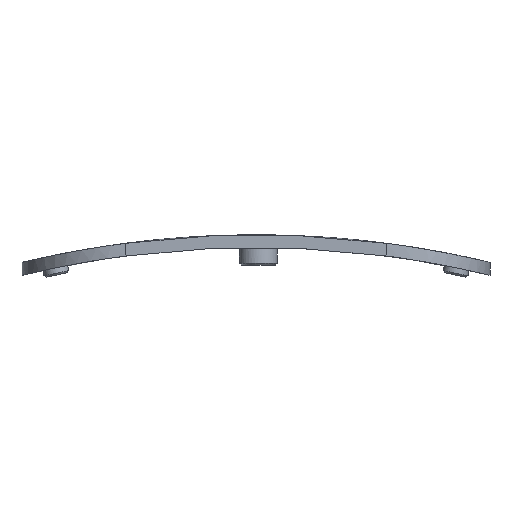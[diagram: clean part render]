
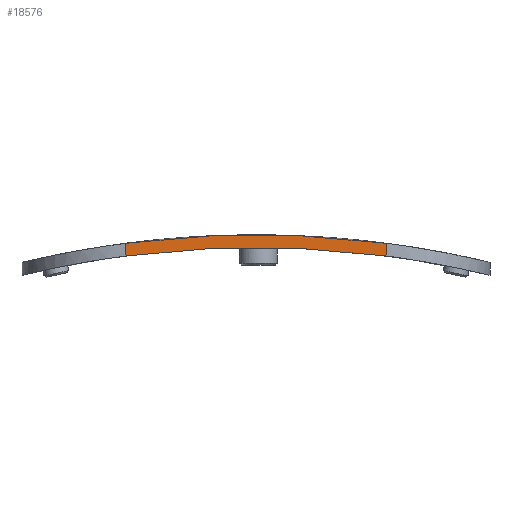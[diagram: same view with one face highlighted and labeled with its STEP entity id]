
A CAD part, front view. The second image highlights one B-rep face of the part: STEP entity #18576.
In plain terms, the highlighted planar face has unit normal (0, -1, 0).
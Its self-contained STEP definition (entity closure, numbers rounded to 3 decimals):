
#71 = CYLINDRICAL_SURFACE('',#72,111.371);
#72 = AXIS2_PLACEMENT_3D('',#73,#74,#75);
#73 = CARTESIAN_POINT('',(53.19,0.,-111.371));
#74 = DIRECTION('',(0.,-1.,0.));
#75 = DIRECTION('',(1.,0.,0.));
#98 = CYLINDRICAL_SURFACE('',#99,11.5);
#99 = AXIS2_PLACEMENT_3D('',#100,#101,#102);
#100 = CARTESIAN_POINT('',(38.74,7.02,2.));
#101 = DIRECTION('',(0.,0.,1.));
#102 = DIRECTION('',(1.,0.,0.));
#123 = CYLINDRICAL_SURFACE('',#124,109.971);
#124 = AXIS2_PLACEMENT_3D('',#125,#126,#127);
#125 = CARTESIAN_POINT('',(53.19,0.,-111.371));
#126 = DIRECTION('',(0.,-1.,0.));
#127 = DIRECTION('',(1.,0.,0.));
#280 = VERTEX_POINT('',#281);
#281 = CARTESIAN_POINT('',(38.74,-4.48,-2.353));
#407 = EDGE_CURVE('',#280,#408,#410,.T.);
#408 = VERTEX_POINT('',#409);
#409 = CARTESIAN_POINT('',(67.64,-4.48,-2.353));
#410 = SURFACE_CURVE('',#411,(#416,#423),.PCURVE_S1.);
#411 = CIRCLE('',#412,109.971);
#412 = AXIS2_PLACEMENT_3D('',#413,#414,#415);
#413 = CARTESIAN_POINT('',(53.19,-4.48,-111.371));
#414 = DIRECTION('',(-0.,1.,0.));
#415 = DIRECTION('',(1.,0.,0.));
#416 = PCURVE('',#123,#417);
#417 = DEFINITIONAL_REPRESENTATION('',(#418),#422);
#418 = LINE('',#419,#420);
#419 = CARTESIAN_POINT('',(6.283,4.48));
#420 = VECTOR('',#421,1.);
#421 = DIRECTION('',(-1.,-0.));
#422 = ( GEOMETRIC_REPRESENTATION_CONTEXT(2) 
PARAMETRIC_REPRESENTATION_CONTEXT() REPRESENTATION_CONTEXT('2D SPACE',''
  ) );
#423 = PCURVE('',#424,#429);
#424 = PLANE('',#425);
#425 = AXIS2_PLACEMENT_3D('',#426,#427,#428);
#426 = CARTESIAN_POINT('',(38.74,-4.48,2.));
#427 = DIRECTION('',(0.,-1.,0.));
#428 = DIRECTION('',(1.,0.,0.));
#429 = DEFINITIONAL_REPRESENTATION('',(#430),#438);
#430 = ( BOUNDED_CURVE() B_SPLINE_CURVE(2,(#431,#432,#433,#434,#435,#436
,#437),.UNSPECIFIED.,.T.,.F.) B_SPLINE_CURVE_WITH_KNOTS((1,2,2,2,2,1),(
    -2.094,0.,2.094,4.189,6.283,
8.378),.UNSPECIFIED.) CURVE() GEOMETRIC_REPRESENTATION_ITEM() 
RATIONAL_B_SPLINE_CURVE((1.,0.5,1.,0.5,1.,0.5,1.)) REPRESENTATION_ITEM(
  '') );
#431 = CARTESIAN_POINT('',(124.421,-113.371));
#432 = CARTESIAN_POINT('',(124.421,-303.848));
#433 = CARTESIAN_POINT('',(-40.536,-208.609));
#434 = CARTESIAN_POINT('',(-205.493,-113.371));
#435 = CARTESIAN_POINT('',(-40.536,-18.133));
#436 = CARTESIAN_POINT('',(124.421,77.105));
#437 = CARTESIAN_POINT('',(124.421,-113.371));
#438 = ( GEOMETRIC_REPRESENTATION_CONTEXT(2) 
PARAMETRIC_REPRESENTATION_CONTEXT() REPRESENTATION_CONTEXT('2D SPACE',''
  ) );
#517 = CYLINDRICAL_SURFACE('',#518,11.5);
#518 = AXIS2_PLACEMENT_3D('',#519,#520,#521);
#519 = CARTESIAN_POINT('',(67.64,7.02,2.));
#520 = DIRECTION('',(0.,0.,1.));
#521 = DIRECTION('',(1.,0.,0.));
#9213 = VERTEX_POINT('',#9214);
#9214 = CARTESIAN_POINT('',(38.74,-4.48,-0.941));
#9342 = EDGE_CURVE('',#9213,#280,#9343,.T.);
#9343 = SURFACE_CURVE('',#9344,(#9348,#9355),.PCURVE_S1.);
#9344 = LINE('',#9345,#9346);
#9345 = CARTESIAN_POINT('',(38.74,-4.48,2.));
#9346 = VECTOR('',#9347,1.);
#9347 = DIRECTION('',(-0.,-0.,-1.));
#9348 = PCURVE('',#98,#9349);
#9349 = DEFINITIONAL_REPRESENTATION('',(#9350),#9354);
#9350 = LINE('',#9351,#9352);
#9351 = CARTESIAN_POINT('',(4.712,0.));
#9352 = VECTOR('',#9353,1.);
#9353 = DIRECTION('',(0.,-1.));
#9354 = ( GEOMETRIC_REPRESENTATION_CONTEXT(2) 
PARAMETRIC_REPRESENTATION_CONTEXT() REPRESENTATION_CONTEXT('2D SPACE',''
  ) );
#9355 = PCURVE('',#424,#9356);
#9356 = DEFINITIONAL_REPRESENTATION('',(#9357),#9361);
#9357 = LINE('',#9358,#9359);
#9358 = CARTESIAN_POINT('',(0.,0.));
#9359 = VECTOR('',#9360,1.);
#9360 = DIRECTION('',(0.,-1.));
#9361 = ( GEOMETRIC_REPRESENTATION_CONTEXT(2) 
PARAMETRIC_REPRESENTATION_CONTEXT() REPRESENTATION_CONTEXT('2D SPACE',''
  ) );
#9367 = EDGE_CURVE('',#9213,#9368,#9370,.T.);
#9368 = VERTEX_POINT('',#9369);
#9369 = CARTESIAN_POINT('',(67.64,-4.48,-0.941));
#9370 = SURFACE_CURVE('',#9371,(#9376,#9383),.PCURVE_S1.);
#9371 = CIRCLE('',#9372,111.371);
#9372 = AXIS2_PLACEMENT_3D('',#9373,#9374,#9375);
#9373 = CARTESIAN_POINT('',(53.19,-4.48,-111.371));
#9374 = DIRECTION('',(-0.,1.,0.));
#9375 = DIRECTION('',(1.,0.,0.));
#9376 = PCURVE('',#71,#9377);
#9377 = DEFINITIONAL_REPRESENTATION('',(#9378),#9382);
#9378 = LINE('',#9379,#9380);
#9379 = CARTESIAN_POINT('',(6.283,4.48));
#9380 = VECTOR('',#9381,1.);
#9381 = DIRECTION('',(-1.,-0.));
#9382 = ( GEOMETRIC_REPRESENTATION_CONTEXT(2) 
PARAMETRIC_REPRESENTATION_CONTEXT() REPRESENTATION_CONTEXT('2D SPACE',''
  ) );
#9383 = PCURVE('',#424,#9384);
#9384 = DEFINITIONAL_REPRESENTATION('',(#9385),#9393);
#9385 = ( BOUNDED_CURVE() B_SPLINE_CURVE(2,(#9386,#9387,#9388,#9389,
#9390,#9391,#9392),.UNSPECIFIED.,.T.,.F.) B_SPLINE_CURVE_WITH_KNOTS((1,2
    ,2,2,2,1),(-2.094,0.,2.094,4.189,
6.283,8.378),.UNSPECIFIED.) CURVE() 
GEOMETRIC_REPRESENTATION_ITEM() RATIONAL_B_SPLINE_CURVE((1.,0.5,1.,0.5,
1.,0.5,1.)) REPRESENTATION_ITEM('') );
#9386 = CARTESIAN_POINT('',(125.821,-113.371));
#9387 = CARTESIAN_POINT('',(125.821,-306.272));
#9388 = CARTESIAN_POINT('',(-41.236,-209.822));
#9389 = CARTESIAN_POINT('',(-208.293,-113.371));
#9390 = CARTESIAN_POINT('',(-41.236,-16.921));
#9391 = CARTESIAN_POINT('',(125.821,79.53));
#9392 = CARTESIAN_POINT('',(125.821,-113.371));
#9393 = ( GEOMETRIC_REPRESENTATION_CONTEXT(2) 
PARAMETRIC_REPRESENTATION_CONTEXT() REPRESENTATION_CONTEXT('2D SPACE',''
  ) );
#18576 = ADVANCED_FACE('',(#18577),#424,.T.);
#18577 = FACE_BOUND('',#18578,.T.);
#18578 = EDGE_LOOP('',(#18579,#18580,#18581,#18582));
#18579 = ORIENTED_EDGE('',*,*,#9367,.F.);
#18580 = ORIENTED_EDGE('',*,*,#9342,.T.);
#18581 = ORIENTED_EDGE('',*,*,#407,.T.);
#18582 = ORIENTED_EDGE('',*,*,#18583,.F.);
#18583 = EDGE_CURVE('',#9368,#408,#18584,.T.);
#18584 = SURFACE_CURVE('',#18585,(#18589,#18596),.PCURVE_S1.);
#18585 = LINE('',#18586,#18587);
#18586 = CARTESIAN_POINT('',(67.64,-4.48,2.));
#18587 = VECTOR('',#18588,1.);
#18588 = DIRECTION('',(-0.,-0.,-1.));
#18589 = PCURVE('',#424,#18590);
#18590 = DEFINITIONAL_REPRESENTATION('',(#18591),#18595);
#18591 = LINE('',#18592,#18593);
#18592 = CARTESIAN_POINT('',(28.9,0.));
#18593 = VECTOR('',#18594,1.);
#18594 = DIRECTION('',(0.,-1.));
#18595 = ( GEOMETRIC_REPRESENTATION_CONTEXT(2) 
PARAMETRIC_REPRESENTATION_CONTEXT() REPRESENTATION_CONTEXT('2D SPACE',''
  ) );
#18596 = PCURVE('',#517,#18597);
#18597 = DEFINITIONAL_REPRESENTATION('',(#18598),#18602);
#18598 = LINE('',#18599,#18600);
#18599 = CARTESIAN_POINT('',(4.712,0.));
#18600 = VECTOR('',#18601,1.);
#18601 = DIRECTION('',(0.,-1.));
#18602 = ( GEOMETRIC_REPRESENTATION_CONTEXT(2) 
PARAMETRIC_REPRESENTATION_CONTEXT() REPRESENTATION_CONTEXT('2D SPACE',''
  ) );
